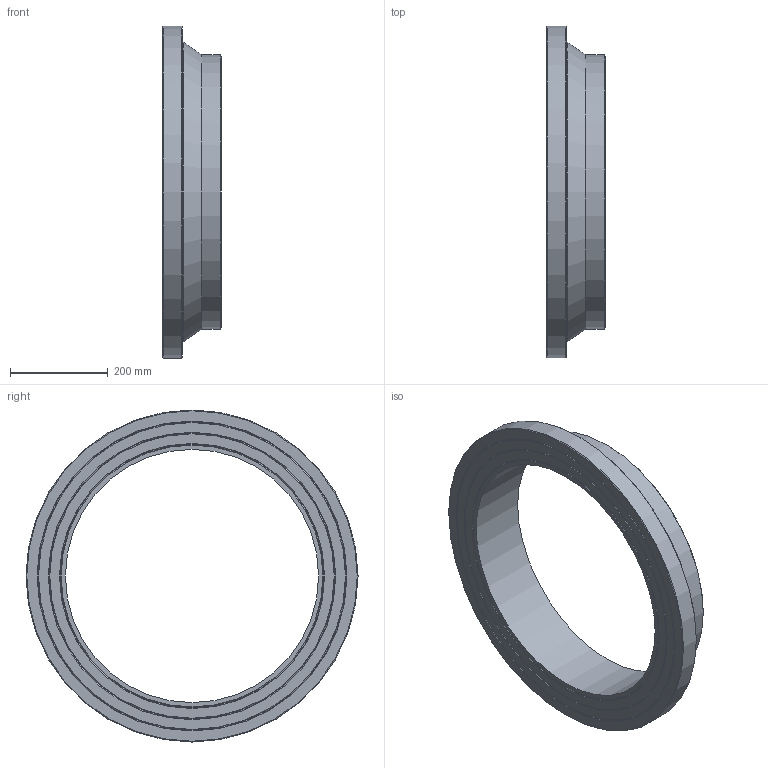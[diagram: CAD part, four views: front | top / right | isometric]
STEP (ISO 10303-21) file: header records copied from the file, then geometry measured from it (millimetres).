
FILE_DESCRIPTION(/* description */ ('Unknown'),/* implementation_level */ '2;1');
FILE_NAME(/* name */ 'CCP560A',/* time_stamp */ '2022-04-05T10:47:27+02:00',/* author */ ('Unknown'),/* organization */ ('Unknown'),/* preprocessor_version */ 'ST-DEVELOPER v18.1',/* originating_system */ 'Solid Edge',/* authorisation */ 'Unknown');
FILE_SCHEMA (('AUTOMOTIVE_DESIGN {1 0 10303 214 3 1 1}'));
Length unit declared in the file: millimetre
Products named in the file (1): CCP560A
Bounding box: 120 x 678 x 678 mm (x, y, z)
Volume: 9917427 mm3; surface area: 687941 mm2
Topology: 1 solids, 1 shells, 20 faces, 35 edges, 21 vertices
Faces by surface type: cone 10, plane 6, cylinder 3, torus 1
Full cylindrical faces by diameter (mm): 517.2 x1, 560 x1, 678 x1
Entity records: 438 total; most frequent: DIRECTION 82, CARTESIAN_POINT 61, AXIS2_PLACEMENT_3D 41, ORIENTED_EDGE 40, EDGE_LOOP 40, FACE_BOUND 40, EDGE_CURVE 20, VERTEX_POINT 20
